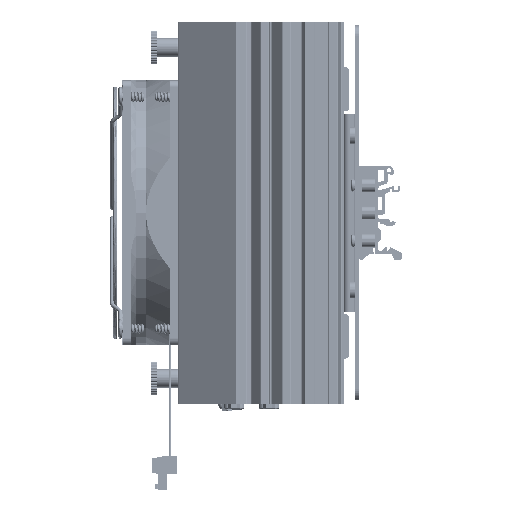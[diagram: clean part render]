
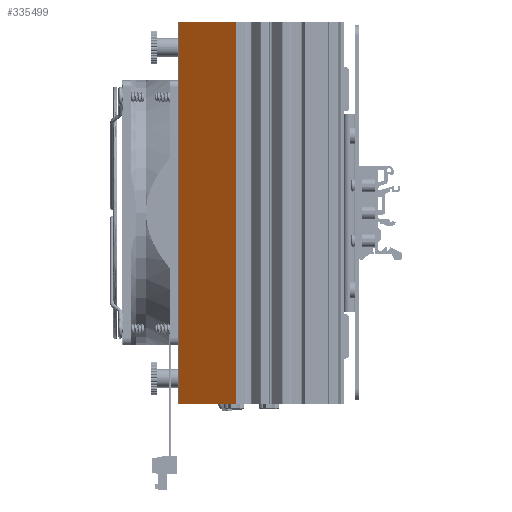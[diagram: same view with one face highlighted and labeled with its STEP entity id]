
A CAD part, left-side view. The second image highlights one B-rep face of the part: STEP entity #335499.
In plain terms, the highlighted planar face has unit normal (-0.819, 0.574, 0).
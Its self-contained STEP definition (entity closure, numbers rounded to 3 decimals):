
#7202 = CARTESIAN_POINT ( 'NONE',  ( -102.947, 74.772, -86.5 ) ) ;
#11830 = EDGE_CURVE ( 'NONE', #217733, #156459, #133286, .T. ) ;
#13436 = LINE ( 'NONE', #328169, #245533 ) ;
#21874 = CARTESIAN_POINT ( 'NONE',  ( -120.999, 48.992, 86.5 ) ) ;
#30078 = ORIENTED_EDGE ( 'NONE', *, *, #11830, .F. ) ;
#36191 = ORIENTED_EDGE ( 'NONE', *, *, #298043, .T. ) ;
#50677 = CARTESIAN_POINT ( 'NONE',  ( -122.022, 47.53, 86.5 ) ) ;
#71160 = LINE ( 'NONE', #201493, #233130 ) ;
#75705 = VECTOR ( 'NONE', #217700, 1000. ) ;
#84704 = VECTOR ( 'NONE', #233116, 1000. ) ;
#87475 = ORIENTED_EDGE ( 'NONE', *, *, #386807, .T. ) ;
#120186 = DIRECTION ( 'NONE',  ( 0.819, -0.574, 0. ) ) ;
#122799 = VERTEX_POINT ( 'NONE', #7202 ) ;
#133286 = LINE ( 'NONE', #239045, #84704 ) ;
#134132 = ORIENTED_EDGE ( 'NONE', *, *, #273573, .T. ) ;
#154094 = FACE_OUTER_BOUND ( 'NONE', #235168, .T. ) ;
#156459 = VERTEX_POINT ( 'NONE', #21874 ) ;
#183026 = CARTESIAN_POINT ( 'NONE',  ( -102.947, 74.772, 86.5 ) ) ;
#186604 = PLANE ( 'NONE',  #197280 ) ;
#197280 = AXIS2_PLACEMENT_3D ( 'NONE', #50677, #120186, #361567 ) ;
#201493 = CARTESIAN_POINT ( 'NONE',  ( -122.022, 47.53, -86.5 ) ) ;
#217700 = DIRECTION ( 'NONE',  ( 0., 0., -1. ) ) ;
#217733 = VERTEX_POINT ( 'NONE', #374079 ) ;
#233116 = DIRECTION ( 'NONE',  ( -0.574, -0.819, 0. ) ) ;
#233130 = VECTOR ( 'NONE', #270716, 1000. ) ;
#235168 = EDGE_LOOP ( 'NONE', ( #36191, #134132, #30078, #87475 ) ) ;
#239045 = CARTESIAN_POINT ( 'NONE',  ( -122.022, 47.53, 86.5 ) ) ;
#245533 = VECTOR ( 'NONE', #368815, 1000. ) ;
#259194 = LINE ( 'NONE', #183026, #75705 ) ;
#270716 = DIRECTION ( 'NONE',  ( -0.574, -0.819, 0. ) ) ;
#273573 = EDGE_CURVE ( 'NONE', #340543, #156459, #13436, .T. ) ;
#298043 = EDGE_CURVE ( 'NONE', #122799, #340543, #71160, .T. ) ;
#328169 = CARTESIAN_POINT ( 'NONE',  ( -120.999, 48.992, 86.5 ) ) ;
#332818 = CARTESIAN_POINT ( 'NONE',  ( -120.999, 48.992, -86.5 ) ) ;
#335499 = ADVANCED_FACE ( 'NONE', ( #154094 ), #186604, .F. ) ;
#340543 = VERTEX_POINT ( 'NONE', #332818 ) ;
#361567 = DIRECTION ( 'NONE',  ( 0.574, 0.819, 0. ) ) ;
#368815 = DIRECTION ( 'NONE',  ( 0., 0., 1. ) ) ;
#374079 = CARTESIAN_POINT ( 'NONE',  ( -102.947, 74.772, 86.5 ) ) ;
#386807 = EDGE_CURVE ( 'NONE', #217733, #122799, #259194, .T. ) ;
